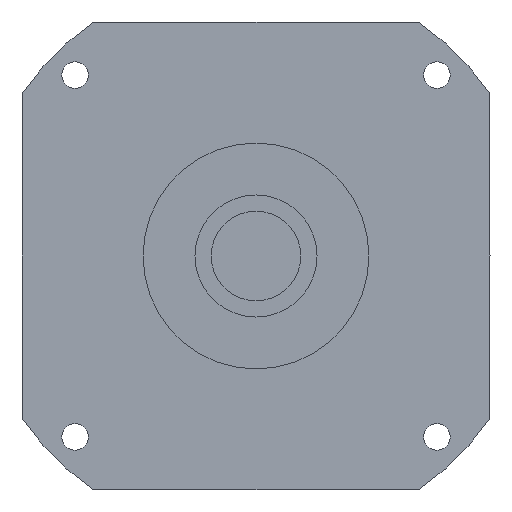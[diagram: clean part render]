
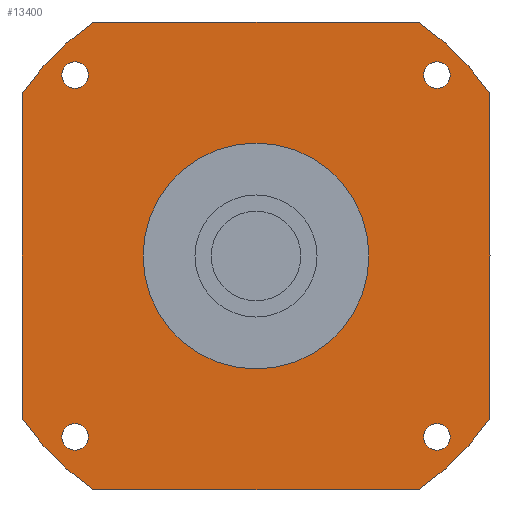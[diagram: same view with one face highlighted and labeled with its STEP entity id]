
A CAD part, left-side view. The second image highlights one B-rep face of the part: STEP entity #13400.
In plain terms, the highlighted planar face has unit normal (-1, 0, 0) as drawn and (0, 0, -1) by its records, which use the part's own axes.
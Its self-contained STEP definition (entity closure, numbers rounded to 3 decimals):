
#11730=CARTESIAN_POINT('',(-41.199,44.449,-65.6));
#11740=VERTEX_POINT('',#11730);
#11770=CARTESIAN_POINT('',(-44.449,44.449,-65.6));
#11780=DIRECTION('',(0.,0.,-1.));
#11790=DIRECTION('',(-1.,0.,0.));
#11800=AXIS2_PLACEMENT_3D('',#11770,#11780,#11790);
#11810=CIRCLE('',#11800,3.25);
#11820=CARTESIAN_POINT('',(-47.699,44.449,-65.6));
#11830=VERTEX_POINT('',#11820);
#11840=EDGE_CURVE('',#11830,#11740,#11810,.T.);
#11960=CARTESIAN_POINT('',(57.5,57.5,-65.6));
#11970=DIRECTION('',(0.,0.,-1.));
#11980=DIRECTION('',(1.,0.,0.));
#11990=AXIS2_PLACEMENT_3D('',#11960,#11970,#11980);
#12000=PLANE('',#11990);
#12010=CARTESIAN_POINT('',(-44.449,-44.449,-65.6));
#12020=DIRECTION('',(0.,0.,-1.));
#12030=DIRECTION('',(0.,-1.,0.));
#12040=AXIS2_PLACEMENT_3D('',#12010,#12020,#12030);
#12050=CIRCLE('',#12040,3.25);
#12060=CARTESIAN_POINT('',(-44.449,-47.699,-65.6));
#12070=VERTEX_POINT('',#12060);
#12080=CARTESIAN_POINT('',(-44.449,-41.199,-65.6));
#12090=VERTEX_POINT('',#12080);
#12100=EDGE_CURVE('',#12070,#12090,#12050,.T.);
#12110=ORIENTED_EDGE('',*,*,#12100,.F.);
#12120=EDGE_CURVE('',#12090,#12070,#12050,.T.);
#12130=ORIENTED_EDGE('',*,*,#12120,.F.);
#12140=EDGE_LOOP('',(#12130,#12110));
#12150=FACE_BOUND('',#12140,.T.);
#12160=ORIENTED_EDGE('',*,*,#11840,.F.);
#12170=EDGE_CURVE('',#11740,#11830,#11810,.T.);
#12180=ORIENTED_EDGE('',*,*,#12170,.F.);
#12190=EDGE_LOOP('',(#12180,#12160));
#12200=FACE_BOUND('',#12190,.T.);
#12210=CARTESIAN_POINT('',(44.449,44.449,-65.6));
#12220=DIRECTION('',(0.,0.,-1.));
#12230=DIRECTION('',(0.,1.,0.));
#12240=AXIS2_PLACEMENT_3D('',#12210,#12220,#12230);
#12250=CIRCLE('',#12240,3.25);
#12260=CARTESIAN_POINT('',(44.449,47.699,-65.6));
#12270=VERTEX_POINT('',#12260);
#12280=CARTESIAN_POINT('',(44.449,41.199,-65.6));
#12290=VERTEX_POINT('',#12280);
#12300=EDGE_CURVE('',#12270,#12290,#12250,.T.);
#12310=ORIENTED_EDGE('',*,*,#12300,.F.);
#12320=EDGE_CURVE('',#12290,#12270,#12250,.T.);
#12330=ORIENTED_EDGE('',*,*,#12320,.F.);
#12340=EDGE_LOOP('',(#12330,#12310));
#12350=FACE_BOUND('',#12340,.T.);
#12360=CARTESIAN_POINT('',(0.,0.,
-65.6));
#12370=DIRECTION('',(0.,0.,1.));
#12380=DIRECTION('',(0.,1.,0.));
#12390=AXIS2_PLACEMENT_3D('',#12360,#12370,#12380);
#12400=CIRCLE('',#12390,27.76);
#12410=CARTESIAN_POINT('',(-27.76,0.,-65.6));
#12420=VERTEX_POINT('',#12410);
#12430=CARTESIAN_POINT('',(27.76,0.,-65.6));
#12440=VERTEX_POINT('',#12430);
#12450=EDGE_CURVE('',#12420,#12440,#12400,.T.);
#12460=ORIENTED_EDGE('',*,*,#12450,.T.);
#12470=CARTESIAN_POINT('',(0.,27.76,-65.6));
#12480=VERTEX_POINT('',#12470);
#12490=EDGE_CURVE('',#12480,#12420,#12400,.T.);
#12500=ORIENTED_EDGE('',*,*,#12490,.T.);
#12510=EDGE_CURVE('',#12440,#12480,#12400,.T.);
#12520=ORIENTED_EDGE('',*,*,#12510,.T.);
#12530=EDGE_LOOP('',(#12520,#12500,#12460));
#12540=FACE_BOUND('',#12530,.T.);
#12550=CARTESIAN_POINT('',(-57.5,57.5,-65.6));
#12560=DIRECTION('',(1.,0.,0.));
#12570=VECTOR('',#12560,1000.);
#12580=LINE('',#12550,#12570);
#12590=CARTESIAN_POINT('',(-39.922,57.5,-65.6));
#12600=VERTEX_POINT('',#12590);
#12610=CARTESIAN_POINT('',(39.922,57.5,-65.6));
#12620=VERTEX_POINT('',#12610);
#12630=EDGE_CURVE('',#12600,#12620,#12580,.T.);
#12640=ORIENTED_EDGE('',*,*,#12630,.T.);
#12650=CARTESIAN_POINT('',(0.,0.,
-65.6));
#12660=DIRECTION('',(0.,0.,-1.));
#12670=DIRECTION('',(1.,0.,0.));
#12680=AXIS2_PLACEMENT_3D('',#12650,#12660,#12670);
#12690=CIRCLE('',#12680,70.);
#12700=CARTESIAN_POINT('',(-57.5,39.922,-65.6));
#12710=VERTEX_POINT('',#12700);
#12720=EDGE_CURVE('',#12710,#12600,#12690,.T.);
#12730=ORIENTED_EDGE('',*,*,#12720,.T.);
#12740=CARTESIAN_POINT('',(-57.5,-57.5,-65.6));
#12750=DIRECTION('',(0.,1.,0.));
#12760=VECTOR('',#12750,1000.);
#12770=LINE('',#12740,#12760);
#12780=CARTESIAN_POINT('',(-57.5,-39.922,-65.6));
#12790=VERTEX_POINT('',#12780);
#12800=EDGE_CURVE('',#12790,#12710,#12770,.T.);
#12810=ORIENTED_EDGE('',*,*,#12800,.T.);
#12820=CARTESIAN_POINT('',(0.,0.,
-65.6));
#12830=DIRECTION('',(0.,0.,-1.));
#12840=DIRECTION('',(1.,0.,0.));
#12850=AXIS2_PLACEMENT_3D('',#12820,#12830,#12840);
#12860=CIRCLE('',#12850,70.);
#12870=CARTESIAN_POINT('',(-39.922,-57.5,-65.6));
#12880=VERTEX_POINT('',#12870);
#12890=EDGE_CURVE('',#12880,#12790,#12860,.T.);
#12900=ORIENTED_EDGE('',*,*,#12890,.T.);
#12910=CARTESIAN_POINT('',(57.5,-57.5,-65.6));
#12920=DIRECTION('',(-1.,0.,0.));
#12930=VECTOR('',#12920,1000.);
#12940=LINE('',#12910,#12930);
#12950=CARTESIAN_POINT('',(39.922,-57.5,-65.6));
#12960=VERTEX_POINT('',#12950);
#12970=EDGE_CURVE('',#12960,#12880,#12940,.T.);
#12980=ORIENTED_EDGE('',*,*,#12970,.T.);
#12990=CARTESIAN_POINT('',(0.,0.,
-65.6));
#13000=DIRECTION('',(0.,0.,-1.));
#13010=DIRECTION('',(1.,0.,0.));
#13020=AXIS2_PLACEMENT_3D('',#12990,#13000,#13010);
#13030=CIRCLE('',#13020,70.);
#13040=CARTESIAN_POINT('',(57.5,-39.922,-65.6));
#13050=VERTEX_POINT('',#13040);
#13060=EDGE_CURVE('',#13050,#12960,#13030,.T.);
#13070=ORIENTED_EDGE('',*,*,#13060,.T.);
#13080=CARTESIAN_POINT('',(57.5,57.5,-65.6));
#13090=DIRECTION('',(0.,-1.,0.));
#13100=VECTOR('',#13090,1000.);
#13110=LINE('',#13080,#13100);
#13120=CARTESIAN_POINT('',(57.5,39.922,-65.6));
#13130=VERTEX_POINT('',#13120);
#13140=EDGE_CURVE('',#13130,#13050,#13110,.T.);
#13150=ORIENTED_EDGE('',*,*,#13140,.T.);
#13160=CARTESIAN_POINT('',(0.,0.,
-65.6));
#13170=DIRECTION('',(0.,0.,-1.));
#13180=DIRECTION('',(1.,0.,0.));
#13190=AXIS2_PLACEMENT_3D('',#13160,#13170,#13180);
#13200=CIRCLE('',#13190,70.);
#13210=EDGE_CURVE('',#12620,#13130,#13200,.T.);
#13220=ORIENTED_EDGE('',*,*,#13210,.T.);
#13230=EDGE_LOOP('',(#13220,#13150,#13070,#12980,#12900,#12810,#12730,
#12640));
#13240=FACE_OUTER_BOUND('',#13230,.T.);
#13250=CARTESIAN_POINT('',(44.449,-44.449,-65.6));
#13260=DIRECTION('',(0.,0.,-1.));
#13270=DIRECTION('',(1.,0.,0.));
#13280=AXIS2_PLACEMENT_3D('',#13250,#13260,#13270);
#13290=CIRCLE('',#13280,3.25);
#13300=CARTESIAN_POINT('',(47.699,-44.449,-65.6));
#13310=VERTEX_POINT('',#13300);
#13320=CARTESIAN_POINT('',(41.199,-44.449,-65.6));
#13330=VERTEX_POINT('',#13320);
#13340=EDGE_CURVE('',#13310,#13330,#13290,.T.);
#13350=ORIENTED_EDGE('',*,*,#13340,.F.);
#13360=EDGE_CURVE('',#13330,#13310,#13290,.T.);
#13370=ORIENTED_EDGE('',*,*,#13360,.F.);
#13380=EDGE_LOOP('',(#13370,#13350));
#13390=FACE_BOUND('',#13380,.T.);
#13400=ADVANCED_FACE('',(#12150,#12200,#12350,#12540,#13240,#13390),
#12000,.T.);
